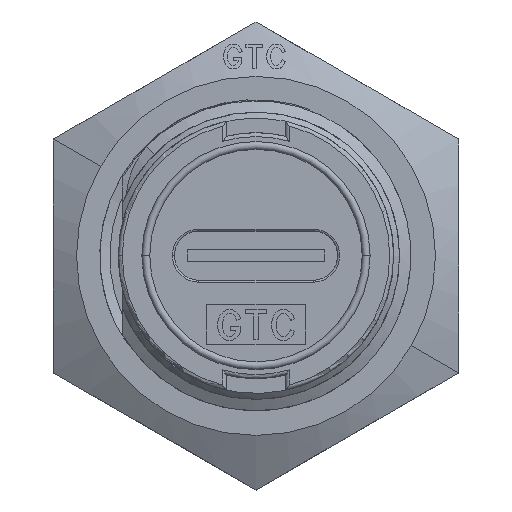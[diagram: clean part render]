
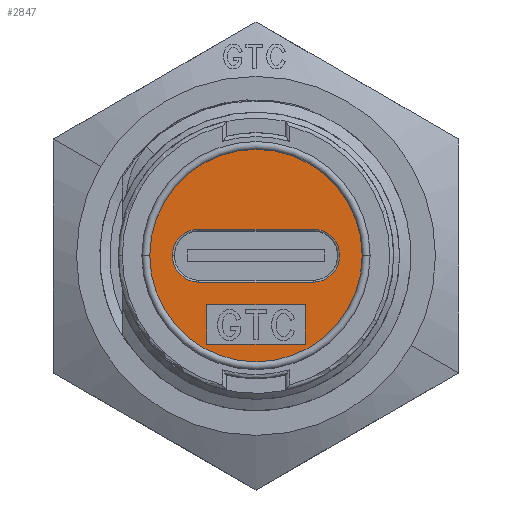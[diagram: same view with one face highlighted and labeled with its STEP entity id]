
A CAD part, top view. The second image highlights one B-rep face of the part: STEP entity #2847.
In plain terms, the highlighted planar face has unit normal (0, 0, 1).
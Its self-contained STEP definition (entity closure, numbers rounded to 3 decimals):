
#55 = DIRECTION ( 'NONE',  ( 0., 0., -1. ) ) ;
#483 = DIRECTION ( 'NONE',  ( 0., -1., 0. ) ) ;
#794 = VECTOR ( 'NONE', #20350, 1000. ) ;
#1161 = DIRECTION ( 'NONE',  ( 0., 0., 1. ) ) ;
#1526 = VERTEX_POINT ( 'NONE', #29675 ) ;
#1588 = VERTEX_POINT ( 'NONE', #3235 ) ;
#2375 = DIRECTION ( 'NONE',  ( -1., 0., 0. ) ) ;
#2847 = ADVANCED_FACE ( 'NONE', ( #15131, #23666, #4482 ), #34479, .F. ) ;
#2939 = ORIENTED_EDGE ( 'NONE', *, *, #9431, .T. ) ;
#3119 = EDGE_CURVE ( 'NONE', #34957, #7587, #19906, .T. ) ;
#3235 = CARTESIAN_POINT ( 'NONE',  ( -2.9, -1.35, 16. ) ) ;
#3503 = EDGE_CURVE ( 'NONE', #4564, #14194, #28672, .T. ) ;
#4119 = CARTESIAN_POINT ( 'NONE',  ( 2.5, -2.5, 16. ) ) ;
#4432 = EDGE_LOOP ( 'NONE', ( #30221, #14451, #34352, #31337 ) ) ;
#4482 = FACE_BOUND ( 'NONE', #4432, .T. ) ;
#4564 = VERTEX_POINT ( 'NONE', #18084 ) ;
#4567 = DIRECTION ( 'NONE',  ( 0., 0., -1. ) ) ;
#4750 = CARTESIAN_POINT ( 'NONE',  ( -4.25, 0., 16. ) ) ;
#4767 = AXIS2_PLACEMENT_3D ( 'NONE', #14461, #1161, #28307 ) ;
#5064 = CARTESIAN_POINT ( 'NONE',  ( 2.9, 0., 16. ) ) ;
#5081 = ORIENTED_EDGE ( 'NONE', *, *, #11697, .T. ) ;
#5386 = LINE ( 'NONE', #32362, #7663 ) ;
#6227 = DIRECTION ( 'NONE',  ( -1., 0., 0. ) ) ;
#6406 = DIRECTION ( 'NONE',  ( -1., 0., 0. ) ) ;
#7163 = AXIS2_PLACEMENT_3D ( 'NONE', #34030, #4567, #23392 ) ;
#7317 = EDGE_CURVE ( 'NONE', #7587, #1526, #19111, .T. ) ;
#7401 = EDGE_LOOP ( 'NONE', ( #2939, #17075, #31750, #5081, #32290 ) ) ;
#7565 = CIRCLE ( 'NONE', #8703, 5.4 ) ;
#7587 = VERTEX_POINT ( 'NONE', #17645 ) ;
#7663 = VECTOR ( 'NONE', #2375, 1000. ) ;
#7728 = DIRECTION ( 'NONE',  ( 0., 1., 0. ) ) ;
#8443 = DIRECTION ( 'NONE',  ( -1., 0., 0. ) ) ;
#8700 = CARTESIAN_POINT ( 'NONE',  ( -2.9, 0., 16. ) ) ;
#8703 = AXIS2_PLACEMENT_3D ( 'NONE', #25028, #11533, #30532 ) ;
#8855 = CARTESIAN_POINT ( 'NONE',  ( -5.4, 0., 16. ) ) ;
#9431 = EDGE_CURVE ( 'NONE', #14194, #20719, #34760, .T. ) ;
#9485 = EDGE_CURVE ( 'NONE', #22615, #34957, #10906, .T. ) ;
#10906 = LINE ( 'NONE', #21413, #28172 ) ;
#11032 = DIRECTION ( 'NONE',  ( -1., 0., 0. ) ) ;
#11470 = VERTEX_POINT ( 'NONE', #8855 ) ;
#11533 = DIRECTION ( 'NONE',  ( 0., 0., 1. ) ) ;
#11697 = EDGE_CURVE ( 'NONE', #14456, #4564, #12281, .T. ) ;
#12281 = CIRCLE ( 'NONE', #7163, 1.35 ) ;
#13386 = CARTESIAN_POINT ( 'NONE',  ( -2.5, -4.5, 16. ) ) ;
#14194 = VERTEX_POINT ( 'NONE', #23316 ) ;
#14451 = ORIENTED_EDGE ( 'NONE', *, *, #9485, .F. ) ;
#14456 = VERTEX_POINT ( 'NONE', #4750 ) ;
#14461 = CARTESIAN_POINT ( 'NONE',  ( 0., 0., 16. ) ) ;
#14641 = CARTESIAN_POINT ( 'NONE',  ( 5.4, 0., 16. ) ) ;
#15078 = EDGE_CURVE ( 'NONE', #1588, #14456, #15745, .T. ) ;
#15131 = FACE_BOUND ( 'NONE', #7401, .T. ) ;
#15304 = CARTESIAN_POINT ( 'NONE',  ( 0., 6.25, 16. ) ) ;
#15745 = CIRCLE ( 'NONE', #27635, 1.35 ) ;
#17075 = ORIENTED_EDGE ( 'NONE', *, *, #21665, .T. ) ;
#17645 = CARTESIAN_POINT ( 'NONE',  ( -2.5, -2.5, 16. ) ) ;
#18084 = CARTESIAN_POINT ( 'NONE',  ( -2.9, 1.35, 16. ) ) ;
#18537 = CARTESIAN_POINT ( 'NONE',  ( 2.5, -4.5, 16. ) ) ;
#19061 = EDGE_CURVE ( 'NONE', #11470, #26781, #7565, .T. ) ;
#19111 = LINE ( 'NONE', #22294, #19499 ) ;
#19499 = VECTOR ( 'NONE', #483, 1000. ) ;
#19890 = DIRECTION ( 'NONE',  ( 0., 0., -1. ) ) ;
#19906 = LINE ( 'NONE', #25576, #34079 ) ;
#20350 = DIRECTION ( 'NONE',  ( 1., 0., 0. ) ) ;
#20719 = VERTEX_POINT ( 'NONE', #20939 ) ;
#20939 = CARTESIAN_POINT ( 'NONE',  ( 2.9, -1.35, 16. ) ) ;
#21205 = LINE ( 'NONE', #13386, #33827 ) ;
#21413 = CARTESIAN_POINT ( 'NONE',  ( 2.5, -2.5, 16. ) ) ;
#21665 = EDGE_CURVE ( 'NONE', #20719, #1588, #5386, .T. ) ;
#21800 = CIRCLE ( 'NONE', #4767, 5.4 ) ;
#22294 = CARTESIAN_POINT ( 'NONE',  ( -2.5, -2.5, 16. ) ) ;
#22615 = VERTEX_POINT ( 'NONE', #18537 ) ;
#22984 = EDGE_CURVE ( 'NONE', #26781, #11470, #21800, .T. ) ;
#23038 = ORIENTED_EDGE ( 'NONE', *, *, #22984, .T. ) ;
#23316 = CARTESIAN_POINT ( 'NONE',  ( 2.9, 1.35, 16. ) ) ;
#23392 = DIRECTION ( 'NONE',  ( -1., 0., 0. ) ) ;
#23666 = FACE_OUTER_BOUND ( 'NONE', #26871, .T. ) ;
#24416 = DIRECTION ( 'NONE',  ( 0., 0., -1. ) ) ;
#25028 = CARTESIAN_POINT ( 'NONE',  ( 0., 0., 16. ) ) ;
#25576 = CARTESIAN_POINT ( 'NONE',  ( -2.5, -2.5, 16. ) ) ;
#26251 = AXIS2_PLACEMENT_3D ( 'NONE', #5064, #24416, #8443 ) ;
#26781 = VERTEX_POINT ( 'NONE', #14641 ) ;
#26871 = EDGE_LOOP ( 'NONE', ( #27240, #23038 ) ) ;
#27240 = ORIENTED_EDGE ( 'NONE', *, *, #19061, .T. ) ;
#27635 = AXIS2_PLACEMENT_3D ( 'NONE', #8700, #19890, #6227 ) ;
#27712 = EDGE_CURVE ( 'NONE', #1526, #22615, #21205, .T. ) ;
#28172 = VECTOR ( 'NONE', #7728, 1000. ) ;
#28307 = DIRECTION ( 'NONE',  ( 1., 0., 0. ) ) ;
#28672 = LINE ( 'NONE', #31318, #794 ) ;
#29675 = CARTESIAN_POINT ( 'NONE',  ( -2.5, -4.5, 16. ) ) ;
#30221 = ORIENTED_EDGE ( 'NONE', *, *, #3119, .F. ) ;
#30532 = DIRECTION ( 'NONE',  ( 1., 0., 0. ) ) ;
#31318 = CARTESIAN_POINT ( 'NONE',  ( 0., 1.35, 16. ) ) ;
#31337 = ORIENTED_EDGE ( 'NONE', *, *, #7317, .F. ) ;
#31750 = ORIENTED_EDGE ( 'NONE', *, *, #15078, .T. ) ;
#32290 = ORIENTED_EDGE ( 'NONE', *, *, #3503, .T. ) ;
#32362 = CARTESIAN_POINT ( 'NONE',  ( 0., -1.35, 16. ) ) ;
#32390 = AXIS2_PLACEMENT_3D ( 'NONE', #15304, #55, #11032 ) ;
#33827 = VECTOR ( 'NONE', #34513, 1000. ) ;
#34030 = CARTESIAN_POINT ( 'NONE',  ( -2.9, 0., 16. ) ) ;
#34079 = VECTOR ( 'NONE', #6406, 1000. ) ;
#34352 = ORIENTED_EDGE ( 'NONE', *, *, #27712, .F. ) ;
#34479 = PLANE ( 'NONE',  #32390 ) ;
#34513 = DIRECTION ( 'NONE',  ( 1., 0., 0. ) ) ;
#34760 = CIRCLE ( 'NONE', #26251, 1.35 ) ;
#34957 = VERTEX_POINT ( 'NONE', #4119 ) ;
